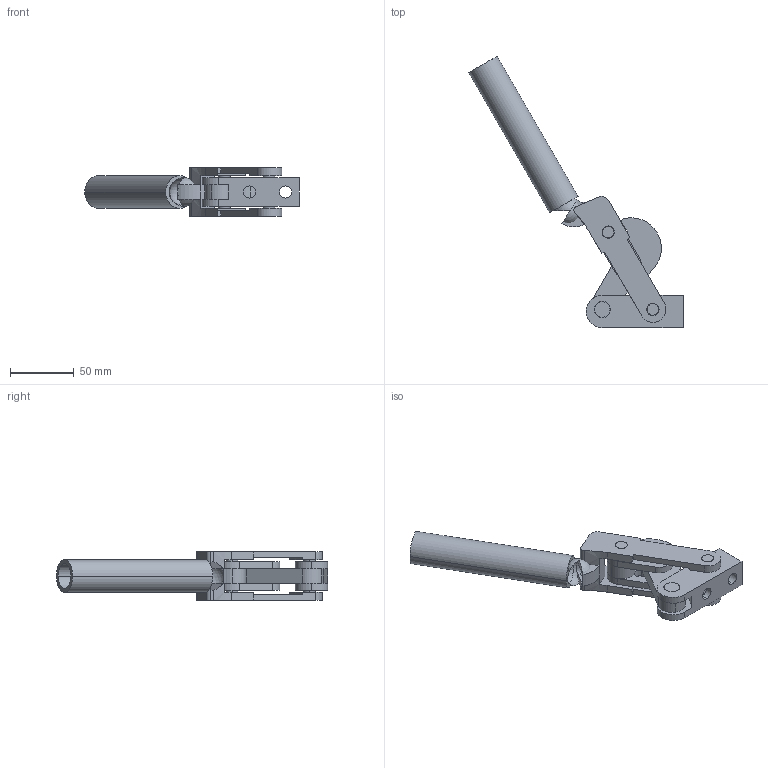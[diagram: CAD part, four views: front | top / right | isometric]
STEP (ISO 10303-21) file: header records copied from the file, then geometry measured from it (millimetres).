
FILE_DESCRIPTION( ( '' ), '1' );
FILE_NAME( 'C:\Documents and Settings\Richard Grenzke\My Documents\Wolverine Company Data\WOLVERINE CD 5_17_05\SOLIDS STEP\heavy_duty_compact\lyt993.stp', ' ', ( '' ), ( '' ), 'ACIS Interop R16', 'Kubotek KeyCreator V5.5.1 (0454)', ' ' );
FILE_SCHEMA( ( 'CONFIG_CONTROL_DESIGN' ) );
Length unit declared in the file: inch
Products named in the file (10): 1; 2; 3; 4; 5; 6; 7; 8; 9; 10
Bounding box: 168.3 x 212.99 x 38.1 mm (x, y, z)
Volume: 126869.4 mm3; surface area: 63342.6 mm2
Topology: 9 solids, 9 shells, 156 faces, 428 edges, 288 vertices
Faces by surface type: cylinder 83, plane 67, cone 4, sphere 2
Entity records: 5571 total; most frequent: DIRECTION 964, CARTESIAN_POINT 892, ORIENTED_EDGE 848, EDGE_CURVE 424, AXIS2_PLACEMENT_3D 376, VERTEX_POINT 288, LINE 212, VECTOR 212
